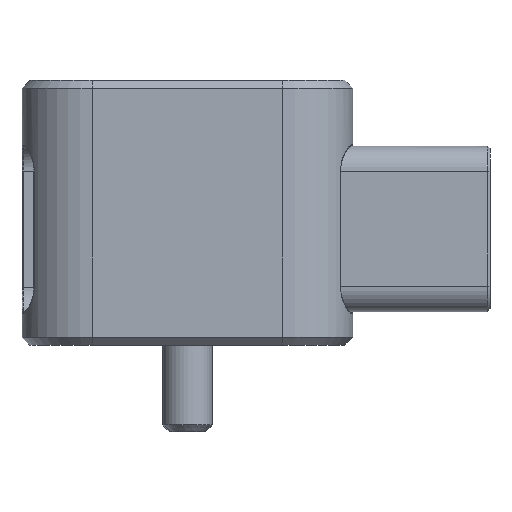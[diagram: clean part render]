
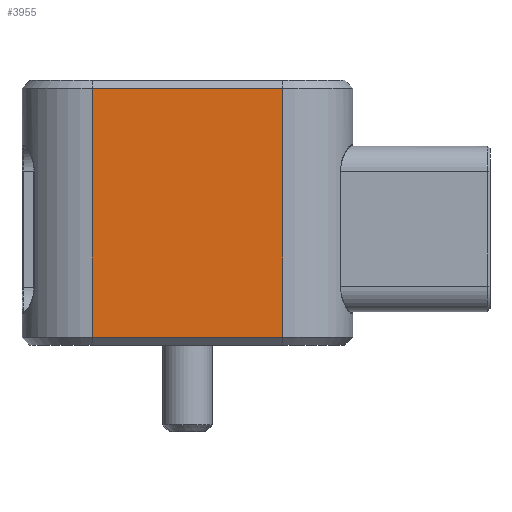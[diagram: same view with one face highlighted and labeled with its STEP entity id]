
A CAD part, front view. The second image highlights one B-rep face of the part: STEP entity #3955.
In plain terms, the highlighted planar face has unit normal (0, -1, 0).
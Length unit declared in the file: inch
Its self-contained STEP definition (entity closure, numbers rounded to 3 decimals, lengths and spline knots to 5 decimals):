
#3 = VERTEX_POINT ( 'NONE', #5623 ) ;
#5 = VERTEX_POINT ( 'NONE', #2531 ) ;
#2531 = CARTESIAN_POINT ( 'NONE',  ( 0.3595, -0.4995, -0.03 ) ) ;
#3600 = CARTESIAN_POINT ( 'NONE',  ( -0.3595, -0.4995, -0.03 ) ) ;
#3601 = CARTESIAN_POINT ( 'NONE',  ( -0.3595, -0.4995, -0.97 ) ) ;
#3955 = ADVANCED_FACE ( 'NONE', ( #8066 ), #7963, .T. ) ;
#4031 = EDGE_CURVE ( 'NONE', #5, #9718, #8696, .T. ) ;
#4037 = EDGE_CURVE ( 'NONE', #3, #5, #8708, .T. ) ;
#4038 = EDGE_CURVE ( 'NONE', #9719, #3, #8710, .T. ) ;
#4040 = EDGE_CURVE ( 'NONE', #9718, #9719, #8714, .T. ) ;
#4816 = ORIENTED_EDGE ( 'NONE', *, *, #4040, .T. ) ;
#4817 = ORIENTED_EDGE ( 'NONE', *, *, #4038, .T. ) ;
#4818 = ORIENTED_EDGE ( 'NONE', *, *, #4037, .T. ) ;
#4819 = ORIENTED_EDGE ( 'NONE', *, *, #4031, .T. ) ;
#5623 = CARTESIAN_POINT ( 'NONE',  ( 0.3595, -0.4995, -0.97 ) ) ;
#7206 = AXIS2_PLACEMENT_3D ( 'NONE', #7962, #7968, #7969 ) ;
#7359 = EDGE_LOOP ( 'NONE', ( #4816, #4817, #4818, #4819 ) ) ;
#7962 = CARTESIAN_POINT ( 'NONE',  ( -0.6245, -0.4995, -1. ) ) ;
#7963 = PLANE ( 'NONE',  #7206 ) ;
#7968 = DIRECTION ( 'NONE',  ( 0., -1., 0. ) ) ;
#7969 = DIRECTION ( 'NONE',  ( 0., 0., -1. ) ) ;
#8066 = FACE_OUTER_BOUND ( 'NONE', #7359, .T. ) ;
#8617 = CARTESIAN_POINT ( 'NONE',  ( -0.3595, -0.4995, -0.03 ) ) ;
#8618 = DIRECTION ( 'NONE',  ( -1., 0., 0. ) ) ;
#8628 = CARTESIAN_POINT ( 'NONE',  ( 0.3595, -0.4995, -1. ) ) ;
#8629 = DIRECTION ( 'NONE',  ( 0., 0., 1. ) ) ;
#8630 = CARTESIAN_POINT ( 'NONE',  ( -0.6245, -0.4995, -0.97 ) ) ;
#8631 = DIRECTION ( 'NONE',  ( 1., 0., 0. ) ) ;
#8634 = CARTESIAN_POINT ( 'NONE',  ( -0.3595, -0.4995, -1. ) ) ;
#8635 = DIRECTION ( 'NONE',  ( 0., 0., -1. ) ) ;
#8696 = LINE ( 'NONE', #8617, #8697 ) ;
#8697 = VECTOR ( 'NONE', #8618, 39.37008 ) ;
#8708 = LINE ( 'NONE', #8628, #8709 ) ;
#8709 = VECTOR ( 'NONE', #8629, 39.37008 ) ;
#8710 = LINE ( 'NONE', #8630, #8711 ) ;
#8711 = VECTOR ( 'NONE', #8631, 39.37008 ) ;
#8714 = LINE ( 'NONE', #8634, #8715 ) ;
#8715 = VECTOR ( 'NONE', #8635, 39.37008 ) ;
#9718 = VERTEX_POINT ( 'NONE', #3600 ) ;
#9719 = VERTEX_POINT ( 'NONE', #3601 ) ;
